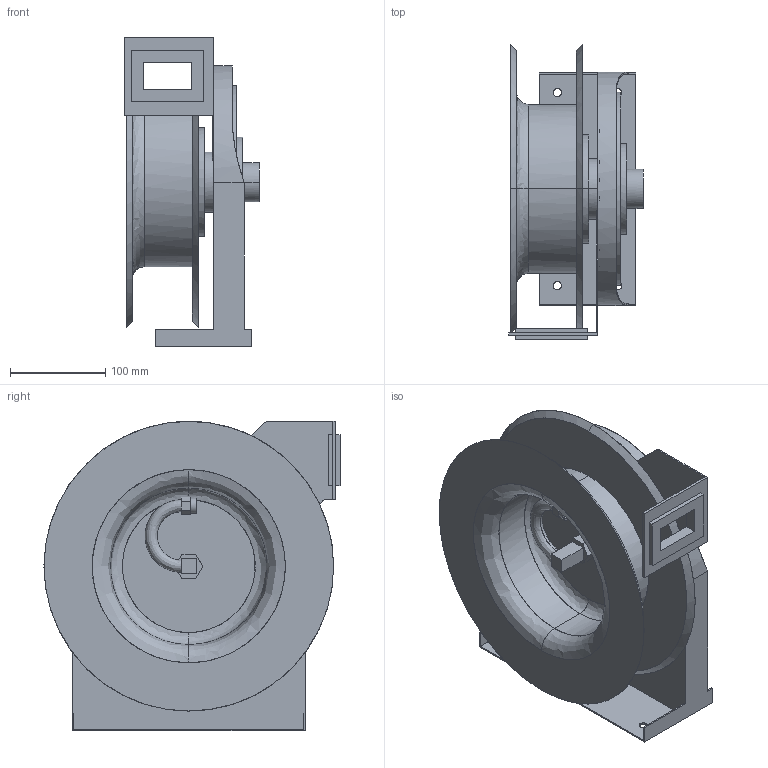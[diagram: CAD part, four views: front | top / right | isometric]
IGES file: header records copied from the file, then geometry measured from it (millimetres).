
Start section: Comment
Global section: file name: 4000  OXP SW.igs; native system:  By UGS Corp.; preprocessor: XPlus GENERIC/IGES 3.0; author: Author; organization: Title; date: 20120809.085157; units: millimetre
Bounding box: 141.53 x 311.47 x 326.11 mm (x, y, z)
Surface area: 593672.2 mm2 (no closed solid volume)
Topology: 0 solids, 0 shells, 139 faces, 668 edges, 668 vertices
Faces by surface type: bspline 139
